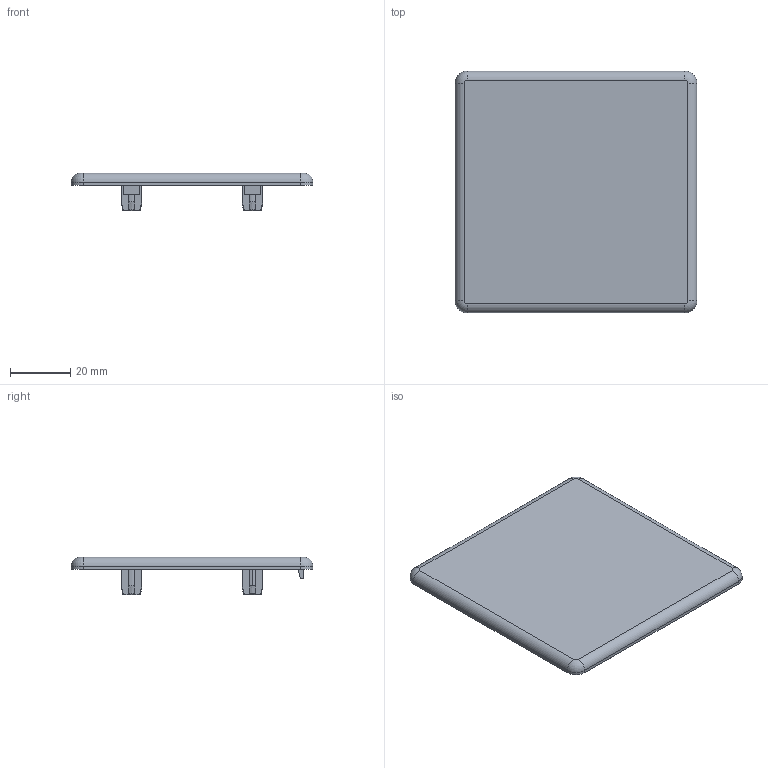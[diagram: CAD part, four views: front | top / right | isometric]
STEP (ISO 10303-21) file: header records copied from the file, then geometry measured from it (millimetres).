
FILE_DESCRIPTION (( 'STEP AP203' ), '1' );
FILE_NAME ('0108AK8080.STEP', '2024-03-07T13:38:05', ( 'Windows-Benutzer' ), ( '' ), 'SwSTEP 2.0', 'SolidWorks 2023', '' );
FILE_SCHEMA (( 'CONFIG_CONTROL_DESIGN' ));
Length unit declared in the file: millimetre
Products named in the file (1): 0108AK8080
Bounding box: 80 x 80 x 12.5 mm (x, y, z)
Volume: 20452.8 mm3; surface area: 15015.1 mm2
Topology: 1 solids, 1 shells, 167 faces, 464 edges, 306 vertices
Faces by surface type: plane 83, cylinder 40, bspline 20, cone 20, torus 4
Entity records: 5757 total; most frequent: CARTESIAN_POINT 1554, ORIENTED_EDGE 928, DIRECTION 790, EDGE_CURVE 464, VERTEX_POINT 306, LINE 266, VECTOR 266, AXIS2_PLACEMENT_3D 262
